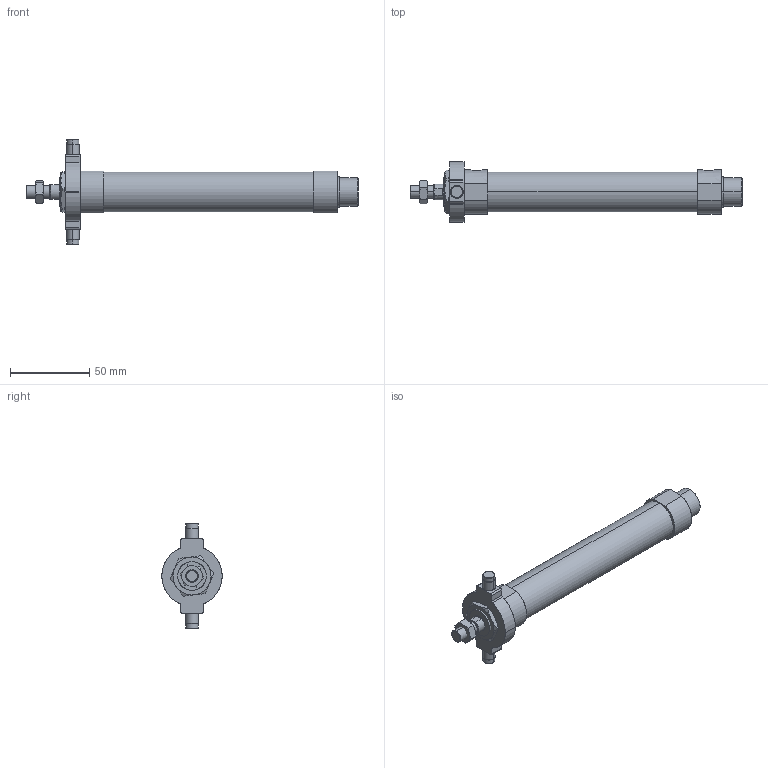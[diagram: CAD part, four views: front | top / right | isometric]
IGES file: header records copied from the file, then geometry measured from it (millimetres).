
Start section: SolidWorks IGES file using analytic representation for surfaces
Global section: file name: C:\Users\Toshiba\Desktop\J#2-20-100-T.IGS; native system: SolidWorks 2014; preprocessor: SolidWorks 2014; author: Toshiba; date: 160308.150251; units: millimetre
Bounding box: 209 x 38 x 66 mm (x, y, z)
Surface area: 22850.7 mm2 (no closed solid volume)
Topology: 0 solids, 0 shells, 131 faces, 2124 edges, 2124 vertices
Faces by surface type: bspline 70, revolution 61
